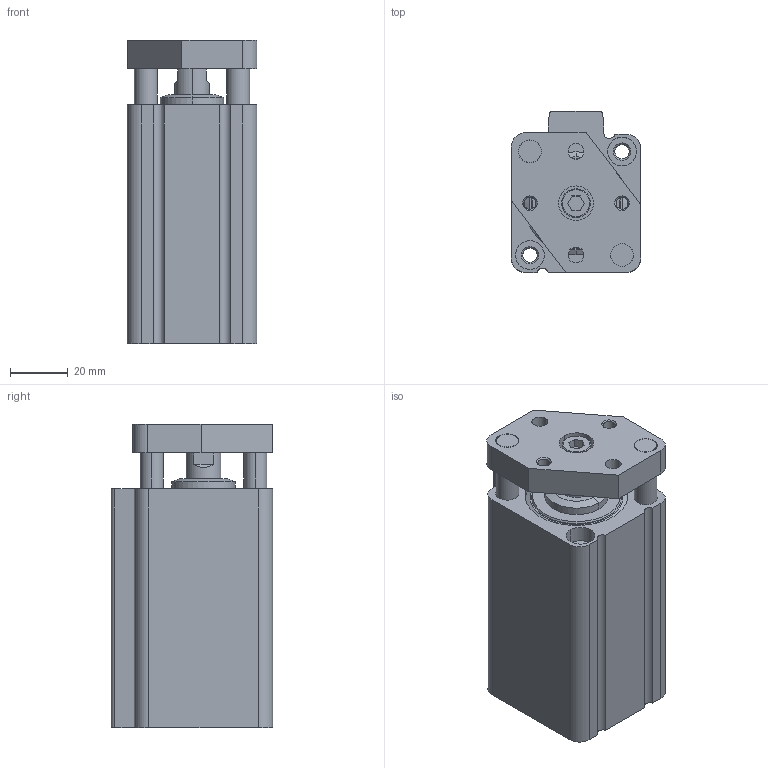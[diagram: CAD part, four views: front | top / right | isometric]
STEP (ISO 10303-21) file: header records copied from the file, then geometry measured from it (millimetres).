
FILE_DESCRIPTION((''),'2;1');
FILE_NAME('0822010747_ASM','2015-07-01T',('vol1hc'),(''),'PRO/ENGINEER BY PARAMETRIC TECHNOLOGY CORPORATION, 2012421','PRO/ENGINEER BY PARAMETRIC TECHNOLOGY CORPORATION, 2012421','');
FILE_SCHEMA(('CONFIG_CONTROL_DESIGN','SHAPE_APPEARANCE_LAYERS_GROUPS'));
Length unit declared in the file: millimetre
Products named in the file (3): 0822010747-A; 0822010747-B; 0822010747_ASM
Assembly tree (2 placements, depth 2):
  0822010747_ASM
    0822010747-A
    0822010747-B
Bounding box: 45 x 56 x 105.5 mm (x, y, z)
Volume: 165366 mm3; surface area: 55026.5 mm2
Topology: 2 solids, 2 shells, 182 faces, 410 edges, 262 vertices
Faces by surface type: cylinder 82, plane 60, cone 34, torus 6
Entity records: 5293 total; most frequent: DIRECTION 1000, CARTESIAN_POINT 876, ORIENTED_EDGE 820, EDGE_CURVE 410, AXIS2_PLACEMENT_3D 405, VERTEX_POINT 262, EDGE_LOOP 228, CIRCLE 218
